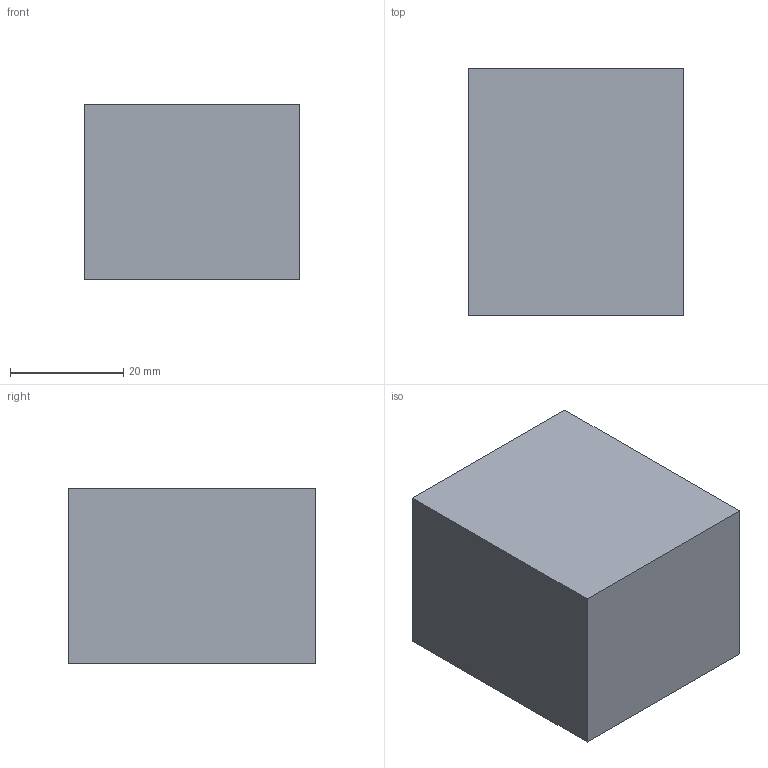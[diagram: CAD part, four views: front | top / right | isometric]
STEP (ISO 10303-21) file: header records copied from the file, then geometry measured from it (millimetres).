
FILE_DESCRIPTION(('FreeCAD Model'),'2;1');
FILE_NAME('/home/jwright/Documents/Mach_30/Shepard_v1.0_CAD/STEP_Files/Shepard_v1.0_Motor_Mount_Block_MMB02.step','2012-10-23T09:58:26',('FreeCAD'),( 'FreeCAD'),'Open CASCADE STEP processor 6.5','FreeCAD','Unknown');
FILE_SCHEMA(('AUTOMOTIVE_DESIGN_CC2 { 1 2 10303 214 -1 1 5 4 }'));
Length unit declared in the file: millimetre
Products named in the file (1): Cut
Bounding box: 38.1 x 43.66 x 30.96 mm (x, y, z)
Volume: 51319.9 mm3; surface area: 8673.4 mm2
Topology: 1 solids, 1 shells, 10 faces, 18 edges, 12 vertices
Faces by surface type: plane 8, cylinder 2
Full cylindrical faces by diameter (mm): 2.381 x2
Entity records: 563 total; most frequent: DIRECTION 80, CARTESIAN_POINT 77, LINE 46, VECTOR 46, ORIENTED_EDGE 36, PCURVE 36, DEFINITIONAL_REPRESENTATION 36, EDGE_CURVE 18
